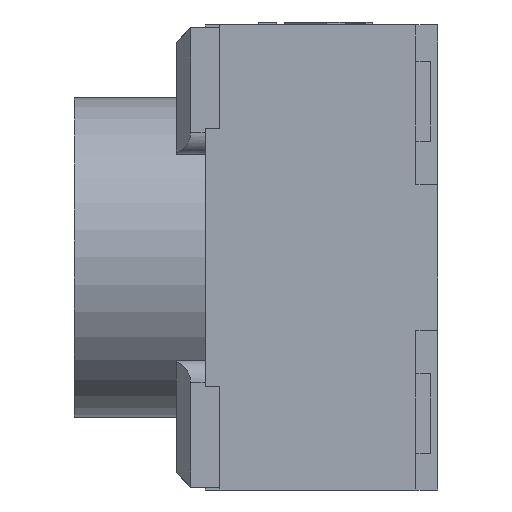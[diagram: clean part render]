
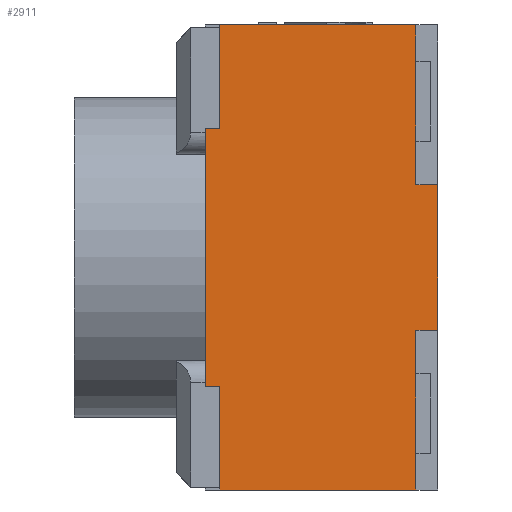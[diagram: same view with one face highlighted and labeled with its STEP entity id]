
A CAD part, left-side view. The second image highlights one B-rep face of the part: STEP entity #2911.
In plain terms, the highlighted planar face has unit normal (-1, 0, 0).
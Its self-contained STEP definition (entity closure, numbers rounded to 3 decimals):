
#367=DIRECTION('',(0.,0.,-1.));
#368=VECTOR('',#367,1.);
#369=CARTESIAN_POINT('',(-2.1,0.,0.5));
#370=LINE('',#369,#368);
#371=DIRECTION('',(0.,0.,-1.));
#372=VECTOR('',#371,0.25);
#373=CARTESIAN_POINT('',(-2.1,0.15,-1.35));
#374=LINE('',#373,#372);
#375=DIRECTION('',(0.,1.,0.));
#376=VECTOR('',#375,1.35);
#377=CARTESIAN_POINT('',(-2.1,0.15,-1.6));
#378=LINE('',#377,#376);
#379=DIRECTION('',(0.,0.,1.));
#380=VECTOR('',#379,0.712);
#381=CARTESIAN_POINT('',(-2.1,1.5,0.888));
#382=LINE('',#381,#380);
#383=DIRECTION('',(0.,-1.,0.));
#384=VECTOR('',#383,1.35);
#385=CARTESIAN_POINT('',(-2.1,1.5,1.6));
#386=LINE('',#385,#384);
#387=DIRECTION('',(0.,0.,1.));
#388=VECTOR('',#387,0.55);
#389=CARTESIAN_POINT('',(-2.1,0.15,0.8));
#390=LINE('',#389,#388);
#399=DIRECTION('',(0.,0.,1.));
#400=VECTOR('',#399,0.25);
#401=CARTESIAN_POINT('',(-2.1,0.15,1.35));
#402=LINE('',#401,#400);
#451=DIRECTION('',(0.,0.,1.));
#452=VECTOR('',#451,0.3);
#453=CARTESIAN_POINT('',(-2.1,0.15,0.5));
#454=LINE('',#453,#452);
#459=DIRECTION('',(0.,1.,0.));
#460=VECTOR('',#459,0.15);
#461=CARTESIAN_POINT('',(-2.1,0.,0.5));
#462=LINE('',#461,#460);
#495=DIRECTION('',(0.,-1.,0.));
#496=VECTOR('',#495,0.15);
#497=CARTESIAN_POINT('',(-2.1,0.15,-0.5));
#498=LINE('',#497,#496);
#499=DIRECTION('',(0.,0.,1.));
#500=VECTOR('',#499,0.3);
#501=CARTESIAN_POINT('',(-2.1,0.15,-0.8));
#502=LINE('',#501,#500);
#535=DIRECTION('',(0.,0.,1.));
#536=VECTOR('',#535,0.55);
#537=CARTESIAN_POINT('',(-2.1,0.15,-1.35));
#538=LINE('',#537,#536);
#551=DIRECTION('',(0.,0.,-1.));
#552=VECTOR('',#551,0.712);
#553=CARTESIAN_POINT('',(-2.1,1.5,-0.888));
#554=LINE('',#553,#552);
#609=DIRECTION('',(0.,0.,-1.));
#610=VECTOR('',#609,1.777);
#611=CARTESIAN_POINT('',(-2.1,1.6,0.888));
#612=LINE('',#611,#610);
#879=DIRECTION('',(0.,1.,0.));
#880=VECTOR('',#879,0.1);
#881=CARTESIAN_POINT('',(-2.1,1.5,0.888));
#882=LINE('',#881,#880);
#937=DIRECTION('',(0.,-1.,0.));
#938=VECTOR('',#937,0.1);
#939=CARTESIAN_POINT('',(-2.1,1.6,-0.888));
#940=LINE('',#939,#938);
#1829=CARTESIAN_POINT('',(-2.1,0.,-0.5));
#1831=VERTEX_POINT('',#1829);
#1859=CARTESIAN_POINT('',(-2.1,0.15,-1.35));
#1861=VERTEX_POINT('',#1859);
#1871=CARTESIAN_POINT('',(-2.1,0.15,-1.6));
#1872=CARTESIAN_POINT('',(-2.1,1.5,-1.6));
#1873=VERTEX_POINT('',#1871);
#1874=VERTEX_POINT('',#1872);
#1937=CARTESIAN_POINT('',(-2.1,0.15,1.6));
#1939=VERTEX_POINT('',#1937);
#1941=CARTESIAN_POINT('',(-2.1,1.5,0.888));
#1942=CARTESIAN_POINT('',(-2.1,1.5,1.6));
#1943=VERTEX_POINT('',#1941);
#1944=VERTEX_POINT('',#1942);
#1951=CARTESIAN_POINT('',(-2.1,0.15,0.5));
#1952=CARTESIAN_POINT('',(-2.1,0.15,0.8));
#1953=VERTEX_POINT('',#1951);
#1954=VERTEX_POINT('',#1952);
#1955=CARTESIAN_POINT('',(-2.1,0.,0.5));
#1956=VERTEX_POINT('',#1955);
#1957=CARTESIAN_POINT('',(-2.1,0.15,-0.8));
#1958=CARTESIAN_POINT('',(-2.1,0.15,-0.5));
#1959=VERTEX_POINT('',#1957);
#1960=VERTEX_POINT('',#1958);
#1961=CARTESIAN_POINT('',(-2.1,1.6,-0.888));
#1962=CARTESIAN_POINT('',(-2.1,1.5,-0.888));
#1963=VERTEX_POINT('',#1961);
#1964=VERTEX_POINT('',#1962);
#1965=CARTESIAN_POINT('',(-2.1,0.15,1.35));
#1966=VERTEX_POINT('',#1965);
#2021=CARTESIAN_POINT('',(-2.1,1.6,0.888));
#2023=VERTEX_POINT('',#2021);
#2877=CARTESIAN_POINT('',(-2.1,0.8,0.));
#2878=DIRECTION('',(1.,0.,0.));
#2879=DIRECTION('',(0.,0.,1.));
#2880=AXIS2_PLACEMENT_3D('',#2877,#2878,#2879);
#2881=PLANE('',#2880);
#2883=ORIENTED_EDGE('',*,*,#2882,.F.);
#2885=ORIENTED_EDGE('',*,*,#2884,.F.);
#2887=ORIENTED_EDGE('',*,*,#2886,.F.);
#2888=ORIENTED_EDGE('',*,*,#2419,.T.);
#2890=ORIENTED_EDGE('',*,*,#2889,.F.);
#2892=ORIENTED_EDGE('',*,*,#2891,.F.);
#2894=ORIENTED_EDGE('',*,*,#2893,.F.);
#2895=ORIENTED_EDGE('',*,*,#2505,.T.);
#2896=ORIENTED_EDGE('',*,*,#2525,.T.);
#2898=ORIENTED_EDGE('',*,*,#2897,.F.);
#2900=ORIENTED_EDGE('',*,*,#2899,.F.);
#2902=ORIENTED_EDGE('',*,*,#2901,.F.);
#2904=ORIENTED_EDGE('',*,*,#2903,.F.);
#2905=ORIENTED_EDGE('',*,*,#2863,.T.);
#2906=ORIENTED_EDGE('',*,*,#2739,.T.);
#2908=ORIENTED_EDGE('',*,*,#2907,.F.);
#2909=EDGE_LOOP('',(#2883,#2885,#2887,#2888,#2890,#2892,#2894,#2895,#2896,#2898,
#2900,#2902,#2904,#2905,#2906,#2908));
#2910=FACE_OUTER_BOUND('',#2909,.F.);
#2419=EDGE_CURVE('',#1956,#1831,#370,.T.);
#2505=EDGE_CURVE('',#1861,#1873,#374,.T.);
#2525=EDGE_CURVE('',#1873,#1874,#378,.T.);
#2739=EDGE_CURVE('',#1944,#1939,#386,.T.);
#2863=EDGE_CURVE('',#1943,#1944,#382,.T.);
#2882=EDGE_CURVE('',#1954,#1966,#390,.T.);
#2884=EDGE_CURVE('',#1953,#1954,#454,.T.);
#2886=EDGE_CURVE('',#1956,#1953,#462,.T.);
#2889=EDGE_CURVE('',#1960,#1831,#498,.T.);
#2891=EDGE_CURVE('',#1959,#1960,#502,.T.);
#2893=EDGE_CURVE('',#1861,#1959,#538,.T.);
#2897=EDGE_CURVE('',#1964,#1874,#554,.T.);
#2899=EDGE_CURVE('',#1963,#1964,#940,.T.);
#2901=EDGE_CURVE('',#2023,#1963,#612,.T.);
#2903=EDGE_CURVE('',#1943,#2023,#882,.T.);
#2907=EDGE_CURVE('',#1966,#1939,#402,.T.);
#2911=ADVANCED_FACE('',(#2910),#2881,.F.);
